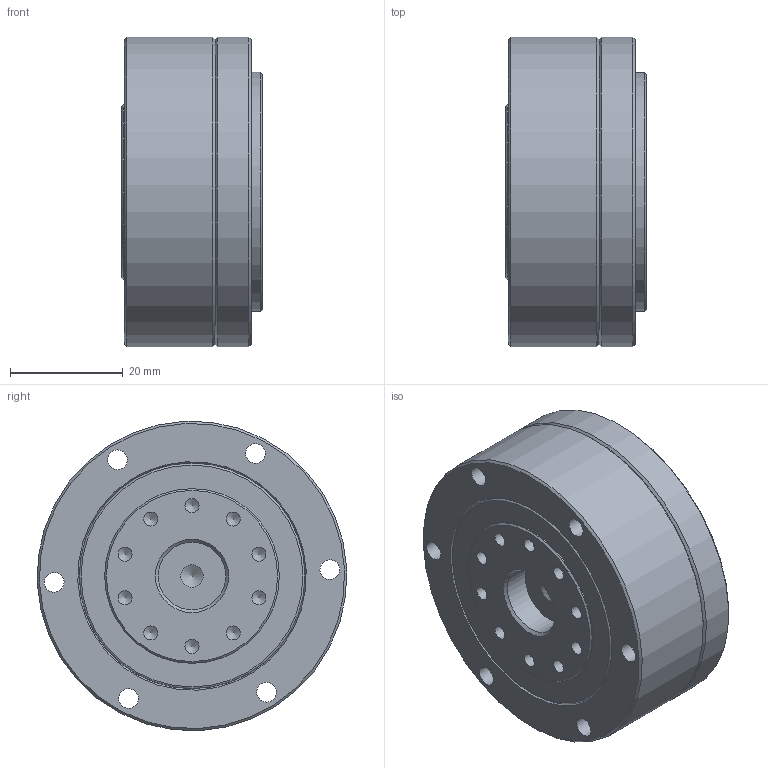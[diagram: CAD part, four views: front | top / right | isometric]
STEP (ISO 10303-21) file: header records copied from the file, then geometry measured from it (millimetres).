
FILE_DESCRIPTION (( 'STEP AP203' ), '1' );
FILE_NAME ('LCD-14-XXX-C-I-ST.STEP', '2024-05-15T10:14:54', ( '' ), ( '' ), 'SwSTEP 2.0', 'SolidWorks 2023', '' );
FILE_SCHEMA (( 'CONFIG_CONTROL_DESIGN' ));
Length unit declared in the file: millimetre
Products named in the file (1): LCD-14-XXX-C-I-ST
Bounding box: 25 x 54.94 x 54.94 mm (x, y, z)
Volume: 44009.3 mm3; surface area: 29994.9 mm2
Topology: 5 solids, 19 shells, 822 faces, 2021 edges, 1271 vertices
Faces by surface type: plane 403, cylinder 204, cone 121, torus 71, sphere 23
Full cylindrical faces by diameter (mm): 1.6 x7, 2 x3, 2.05 x2, 2.5 x38, 3 x17, 3.5 x28, 3.8 x7, 4.5 x3, 5.5 x9, 11 x3, 12 x1, 13 x2, 23 x1, 23.5 x1, 24.1 x1, 25.07 x1, 25.56 x1, 26 x1, 26.5 x1, 26.63 x2, 27.6 x1, 30 x1, 30.457 x1, 31 x3, 31.4 x1, 32.4 x2, 33.9 x1, 33.956 x1, 34 x1, 34.4 x2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
Entity records: 21489 total; most frequent: CARTESIAN_POINT 4071, DIRECTION 3854, ORIENTED_EDGE 3036, AXIS2_PLACEMENT_3D 1665, EDGE_CURVE 1518, EDGE_LOOP 1236, VERTEX_POINT 1086, FACE_OUTER_BOUND 1028
